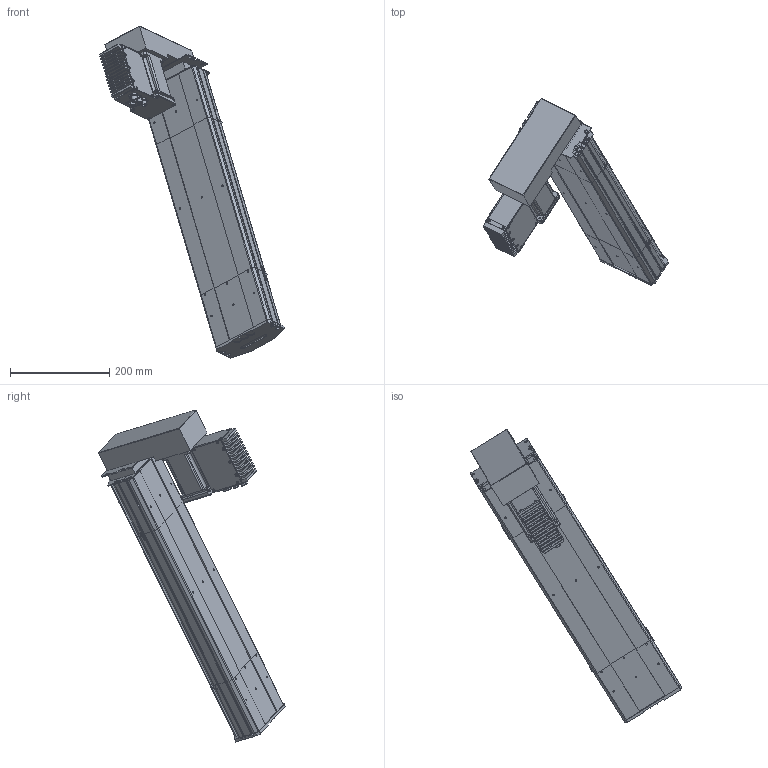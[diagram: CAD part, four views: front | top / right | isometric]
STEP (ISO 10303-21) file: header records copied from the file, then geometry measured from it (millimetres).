
FILE_DESCRIPTION (( 'STEP AP203' ), '1' );
FILE_NAME ('D14 TSH M4 BM L10 S350.STEP', '2012-10-11T12:12:59', ( '' ), ( '' ), 'SwSTEP 2.0', 'SolidWorks 2010', '' );
FILE_SCHEMA (( 'CONFIG_CONTROL_DESIGN' ));
Length unit declared in the file: millimetre
Products named in the file (23): Connecteur rond D10 3cts_2; couvercle D14 course L350_Default_2; corpl tail D14_Default_2; T犨e fond_2; Colonnette_2; Moteur 70BLDC90A_2; plaque de  bout tail D14_Default_2; D14 TSH M4 BM L10 S350; plaque de bout head D14 BM; corp head D14_Default_2; plaque de  bout head D14 MD_Default_2; couvercle D14_Default_2; Moteur_2; T犨e contre le moteur_2; Sub D 9cts_2; Tôle Arrière_2; Couvercle_2; Tôle latérale_2; Connecteur rond D12 4cts_2; Radiateur_2; Vis TF 3 torkx_2; corpl 350_Default_2; couvercle D14 head_Default_2
Assembly tree (49 placements, depth 3):
  D14 TSH M4 BM L10 S350
    couvercle D14_Default_2
    plaque de  bout head D14 MD_Default_2
    plaque de  bout tail D14_Default_2
    couvercle D14 head_Default_2
    corpl tail D14_Default_2
    couvercle D14 course L350_Default_2
    plaque de bout head D14 BM
    corpl 350_Default_2
    Moteur_2
      Vis TF 3 torkx_2  x26
      Tôle latérale_2  x2
      Radiateur_2
      Sub D 9cts_2
      Connecteur rond D10 3cts_2  x2
      Moteur 70BLDC90A_2
      Colonnette_2
      T犨e contre le moteur_2
      Couvercle_2
      T犨e fond_2
      Tôle Arrière_2
      Connecteur rond D12 4cts_2
    corp head D14_Default_2
Bounding box: 373.92 x 376.41 x 669.64 mm (x, y, z)
Volume: 3098158.2 mm3; surface area: 880160 mm2
Topology: 70 solids, 70 shells, 2414 faces, 6300 edges, 4153 vertices
Faces by surface type: plane 1299, cylinder 851, cone 134, bspline 130
Entity records: 65374 total; most frequent: CARTESIAN_POINT 20967, ORIENTED_EDGE 8654, DIRECTION 8293, EDGE_CURVE 4327, LINE 2883, VECTOR 2883, VERTEX_POINT 2859, AXIS2_PLACEMENT_3D 2705
